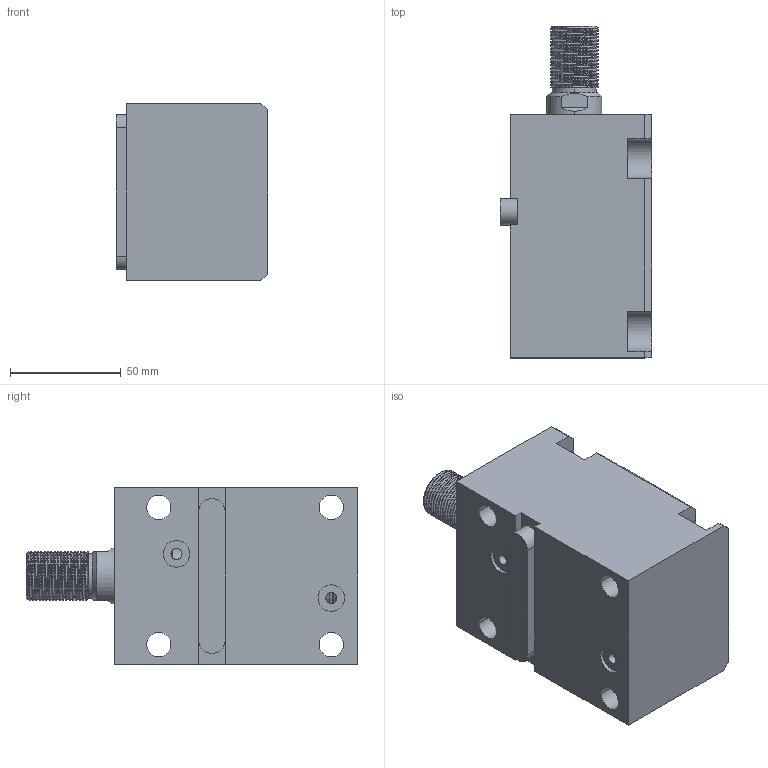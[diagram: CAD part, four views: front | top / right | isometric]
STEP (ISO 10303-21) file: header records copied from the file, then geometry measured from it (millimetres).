
FILE_DESCRIPTION (( 'STEP AP214' ), '1' );
FILE_NAME ('chtb-lam40x55w_asm.STEP', '2018-05-30T03:00:01', ( 'Windows' ), ( 'Microsoft' ), 'SwSTEP 2.0', 'SolidWorks 2015', '' );
FILE_SCHEMA (( 'AUTOMOTIVE_DESIGN' ));
Length unit declared in the file: millimetre
Products named in the file (5): CHTB-SD40X55WHSG; CHTB-SD40QG; CHTB-LAM40X55NBT; CHTB-LA40PJ; chtb-lam40x55w_asm
Assembly tree (4 placements, depth 2):
  chtb-lam40x55w_asm
    CHTB-LA40PJ
    CHTB-LAM40X55NBT
    CHTB-SD40QG
    CHTB-SD40X55WHSG
Bounding box: 68.5 x 150 x 80 mm (x, y, z)
Volume: 501526.5 mm3; surface area: 93505.1 mm2
Topology: 4 solids, 5 shells, 199 faces, 547 edges, 365 vertices
Faces by surface type: cylinder 111, plane 50, bspline 16, torus 12, cone 10
Entity records: 13609 total; most frequent: CARTESIAN_POINT 8674, ORIENTED_EDGE 1082, DIRECTION 894, EDGE_CURVE 541, VERTEX_POINT 365, AXIS2_PLACEMENT_3D 349, EDGE_LOOP 226, ADVANCED_FACE 199
